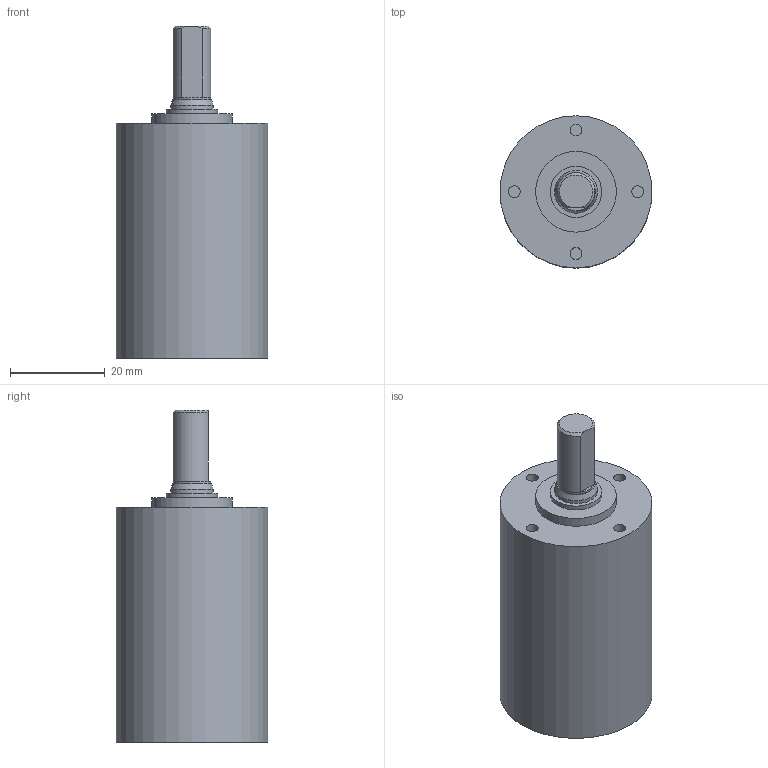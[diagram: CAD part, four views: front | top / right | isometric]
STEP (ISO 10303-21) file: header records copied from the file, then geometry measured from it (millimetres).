
FILE_DESCRIPTION(/* description */ (''),/* implementation_level */ '2;1');
FILE_NAME(/* name */ '32-3_3.stp',/* time_stamp */ '2016-09-07T14:18:49+02:00',/* author */ ('DR. FRITZ FAULHABER GmbH & Co. KG'),/* organization */ ('DR. FRITZ FAULHABER GmbH & Co. KG'),/* preprocessor_version */ 'ST-DEVELOPER v16',/* originating_system */ 'SIEMENS PLM Software NX 10.0',/* authorisation */ '');
FILE_SCHEMA (('AUTOMOTIVE_DESIGN { 1 0 10303 214 3 1 1 1 }'));
Length unit declared in the file: millimetre
Products named in the file (1): H00000472_A
Bounding box: 32 x 32 x 69.9 mm (x, y, z)
Volume: 33015.4 mm3; surface area: 8549.2 mm2
Topology: 1 solids, 1 shells, 39 faces, 87 edges, 70 vertices
Faces by surface type: plane 19, cylinder 17, cone 3
Full cylindrical faces by diameter (mm): 2.5 x4, 4 x1, 7.9 x1, 9 x1, 10.8 x1, 11.8 x1, 12.2 x1, 17 x1, 26.9 x1, 27.57 x1, 30 x1, 30.459 x1, 32 x1
Entity records: 1021 total; most frequent: DIRECTION 191, CARTESIAN_POINT 151, ORIENTED_EDGE 90, AXIS2_PLACEMENT_3D 90, EDGE_LOOP 71, FACE_BOUND 62, CIRCLE 50, EDGE_CURVE 45
